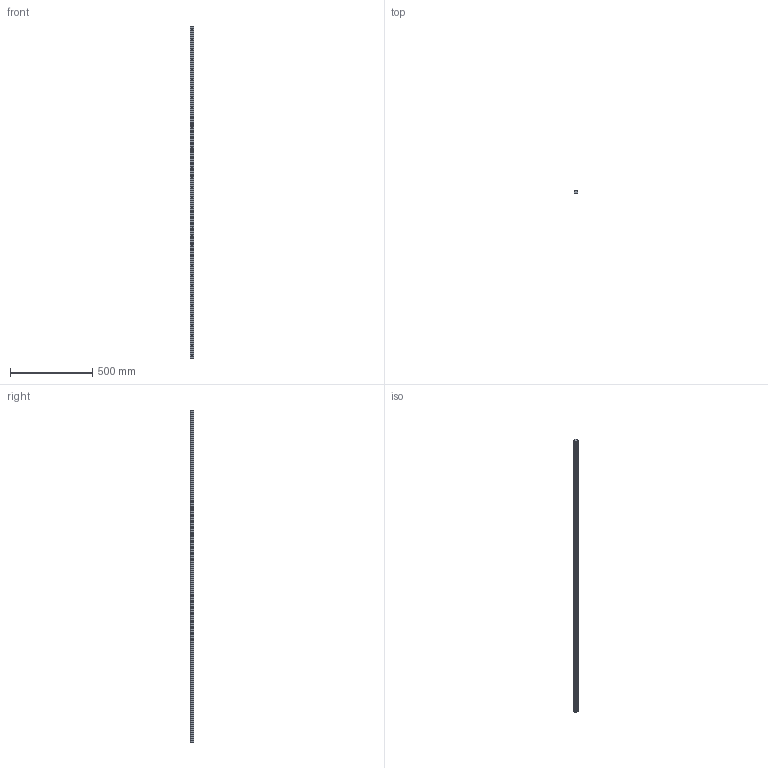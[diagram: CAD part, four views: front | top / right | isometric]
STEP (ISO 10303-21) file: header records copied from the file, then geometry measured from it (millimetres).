
FILE_DESCRIPTION (( 'STEP AP203' ), '1' );
FILE_NAME ('L1016.BRF25-2020.step', '2019-06-13T08:40:34', ( '' ), ( '' ), 'SwSTEP 2.0', 'SolidWorks 2017', '' );
FILE_SCHEMA (( 'CONFIG_CONTROL_DESIGN' ));
Length unit declared in the file: millimetre
Products named in the file (1): L1016.BRF25-2020
Bounding box: 23 x 19.2 x 2020 mm (x, y, z)
Volume: 771201.4 mm3; surface area: 186163.8 mm2
Topology: 1 solids, 1 shells, 264 faces, 616 edges, 354 vertices
Faces by surface type: cylinder 140, cone 68, plane 56
Entity records: 7157 total; most frequent: DIRECTION 1358, CARTESIAN_POINT 1167, ORIENTED_EDGE 1096, EDGE_CURVE 548, AXIS2_PLACEMENT_3D 545, VERTEX_POINT 354, EDGE_LOOP 332, CIRCLE 280
